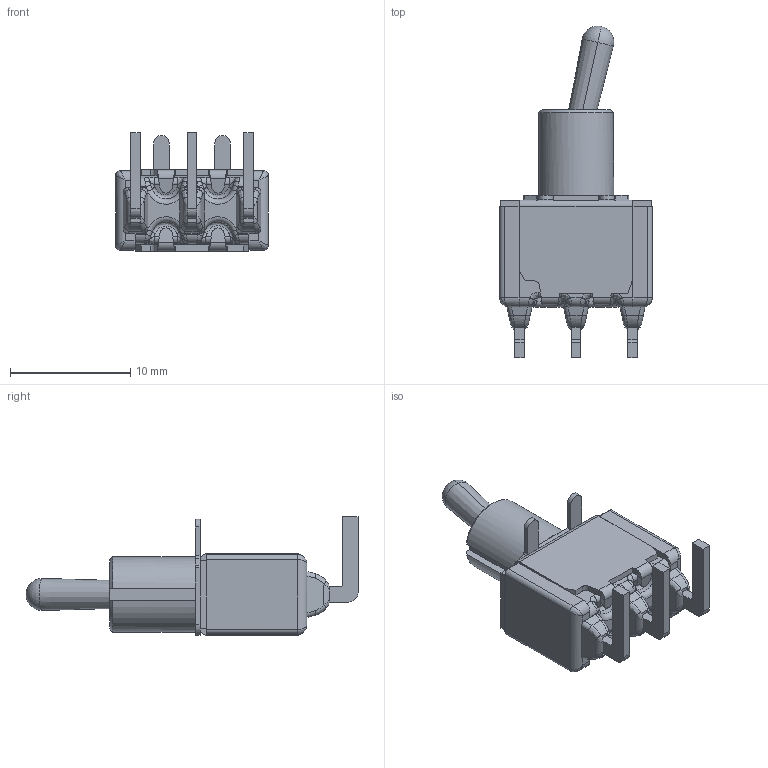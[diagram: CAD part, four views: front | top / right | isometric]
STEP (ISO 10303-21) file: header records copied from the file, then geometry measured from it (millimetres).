
FILE_DESCRIPTION((''),'2;1');
FILE_NAME('710XMD9A_SW0001_PRT','2014-03-20T',('jtrepler'),(''),'PRO/ENGINEER BY PARAMETRIC TECHNOLOGY CORPORATION, 2011410','PRO/ENGINEER BY PARAMETRIC TECHNOLOGY CORPORATION, 2011410','');
FILE_SCHEMA(('AUTOMOTIVE_DESIGN_CC2 { 1 2 10303 214 -1 1 5 2 }'));
Length unit declared in the file: inch
Products named in the file (1): 710XMD9A_SW0001_PRT
Bounding box: 12.7 x 27.61 x 9.88 mm (x, y, z)
Volume: 664.2 mm3; surface area: 1845.3 mm2
Topology: 2 solids, 2 shells, 683 faces, 1826 edges, 1144 vertices
Faces by surface type: plane 483, cylinder 113, bspline 64, cone 11, torus 8, sphere 4
Entity records: 24211 total; most frequent: CARTESIAN_POINT 7704, ORIENTED_EDGE 3644, DIRECTION 3069, EDGE_CURVE 1822, VECTOR 1409, LINE 1409, VERTEX_POINT 1144, AXIS2_PLACEMENT_3D 830
